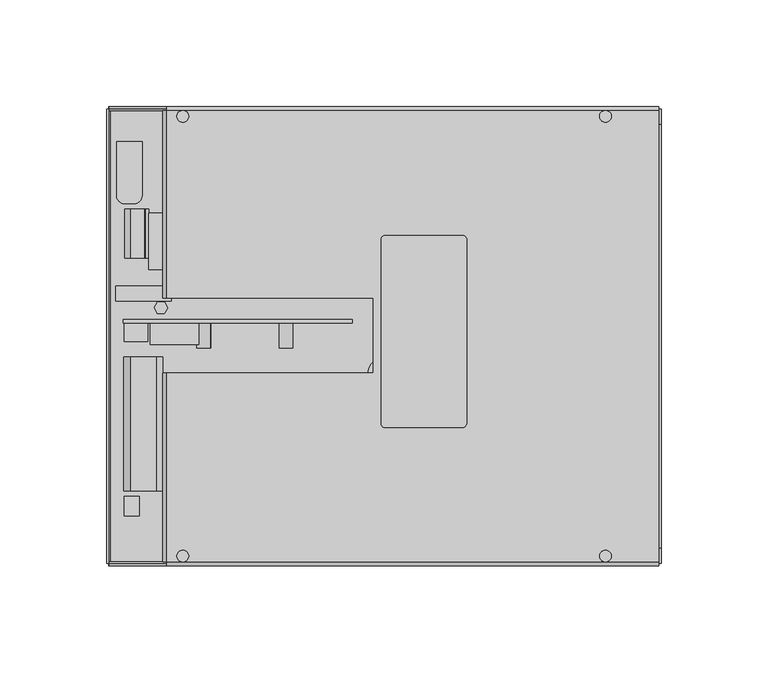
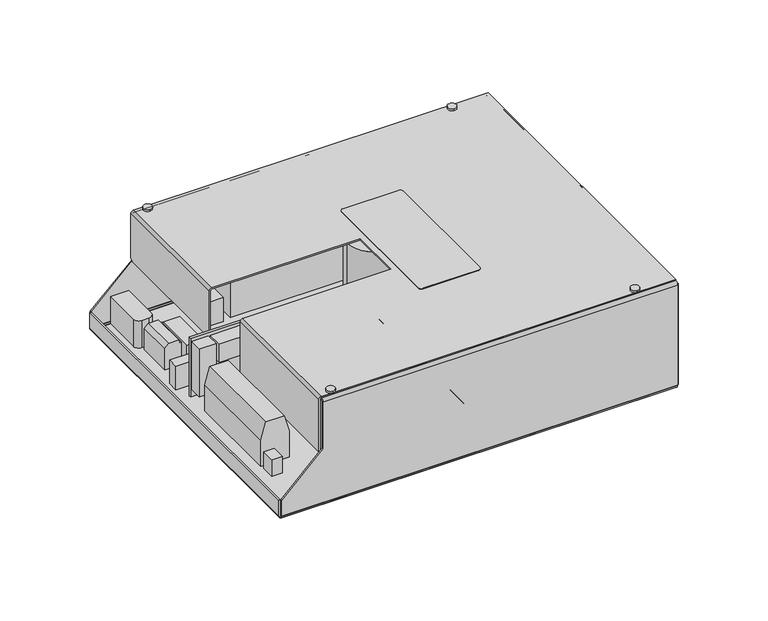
"""IFC4 building model written with IfcOpenShell, lengths in millimetres: proxy geometry, FITIN 48V 12A CG4 : FITIN 48V 12A CG4."""

from ifc_helpers import new_model, si_unit, point, frame, frame_2d, origin, place, context, project, spatial, polyline, circle_curve, trimmed, segment, composite_curve, outline, extrude, source, transform, mapped, element, save
from ifc_brep_helpers import plane_surface, cylinder_surface, revolved_surface, advanced_brep


def electrical_equipment_e4c7c74b(model_context):
    return source(origin(), model_context, "Body", "SolidModel", [
        extrude(outline(composite_curve([segment(trimmed(circle_curve(frame_2d((-105.9256131, 76.9958629)), 3.0793159), [point((-109.004929, 76.9958629))], [point((-102.8462972, 76.9958629))], False, "CARTESIAN"), True, "CONTINUOUS"), segment(trimmed(circle_curve(frame_2d((-105.9256131, 76.9958629)), 3.0793159), [point((-102.8462972, 76.9958629))], [point((-109.004929, 76.9958629))], False, "CARTESIAN"), True, "CONTINUOUS")], self_intersect=False)), frame((0.0, 0.0, -2.9999999), z_axis=(0.0, 0.0, 1.0), x_axis=(1.0, 0.0, 0.0)), (0.0, 0.0, 1.0), 2.9999999),
        extrude(outline(composite_curve([segment(trimmed(circle_curve(frame_2d((91.2381131, 76.9958629)), 3.0793159), [point((94.317429, 76.9958629))], [point((88.1587972, 76.9958629))], False, "CARTESIAN"), True, "CONTINUOUS"), segment(trimmed(circle_curve(frame_2d((91.2381131, 76.9958629)), 3.0793159), [point((88.1587972, 76.9958629))], [point((94.317429, 76.9958629))], False, "CARTESIAN"), True, "CONTINUOUS")], self_intersect=False)), frame((0.0, 0.0, -2.9999999), z_axis=(0.0, 0.0, 1.0), x_axis=(1.0, 0.0, 0.0)), (0.0, 0.0, 1.0), 2.9999999),
        extrude(outline(composite_curve([segment(trimmed(circle_curve(frame_2d((-105.9256131, -76.9958629)), 3.0793159), [point((-109.004929, -76.9958629))], [point((-102.8462972, -76.9958629))], False, "CARTESIAN"), True, "CONTINUOUS"), segment(trimmed(circle_curve(frame_2d((-105.9256131, -76.9958629)), 3.0793159), [point((-102.8462972, -76.9958629))], [point((-109.004929, -76.9958629))], False, "CARTESIAN"), True, "CONTINUOUS")], self_intersect=False)), frame((0.0, 0.0, -2.9999999), z_axis=(0.0, 0.0, 1.0), x_axis=(1.0, 0.0, 0.0)), (0.0, 0.0, 1.0), 2.9999999),
        extrude(outline(composite_curve([segment(trimmed(circle_curve(frame_2d((91.2381131, -76.9958629)), 3.0793159), [point((94.317429, -76.9958629))], [point((88.1587972, -76.9958629))], False, "CARTESIAN"), True, "CONTINUOUS"), segment(trimmed(circle_curve(frame_2d((91.2381131, -76.9958629)), 3.0793159), [point((88.1587972, -76.9958629))], [point((94.317429, -76.9958629))], False, "CARTESIAN"), True, "CONTINUOUS")], self_intersect=False)), frame((0.0, 0.0, -2.9999999), z_axis=(0.0, 0.0, 1.0), x_axis=(1.0, 0.0, 0.0)), (0.0, 0.0, 1.0), 2.9999999),
        extrude(outline(composite_curve([segment(trimmed(circle_curve(frame_2d((-1.0273773, 72.269401)), 4.0383296), [point((-5.065707, 72.269401))], [point((3.0109523, 72.269401))], False, "CARTESIAN"), True, "CONTINUOUS"), segment(trimmed(circle_curve(frame_2d((-1.0273773, 72.269401)), 4.0383296), [point((3.0109523, 72.269401))], [point((-5.065707, 72.269401))], False, "CARTESIAN"), True, "CONTINUOUS")], self_intersect=False)), frame((0.0, 0.0, -5.3849342), z_axis=(0.0, 0.0, 1.0), x_axis=(1.0, 0.0, 0.0)), (0.0, 0.0, 1.0), 1.8849342),
        extrude(outline(composite_curve([segment(trimmed(circle_curve(frame_2d((-1.0273773, -72.2729864)), 4.0383296), [point((-5.065707, -72.2729864))], [point((3.0109523, -72.2729864))], False, "CARTESIAN"), True, "CONTINUOUS"), segment(trimmed(circle_curve(frame_2d((-1.0273773, -72.2729864)), 4.0383296), [point((3.0109523, -72.2729864))], [point((-5.065707, -72.2729864))], False, "CARTESIAN"), True, "CONTINUOUS")], self_intersect=False)), frame((0.0, 0.0, -5.3849342), z_axis=(0.0, 0.0, 1.0), x_axis=(1.0, 0.0, 0.0)), (0.0, 0.0, 1.0), 1.8849342),
        extrude(outline(composite_curve([segment(polyline([(-0.5, -26.0003525), (-5.6765266, -26.0003525), (-7.1525775, -23.3914233)]), True, "CONTINUOUS"), segment(trimmed(circle_curve(frame_2d((-6.7152567, -23.1440008)), 0.5024613), [point((-7.1525775, -23.3914233))], [point((-6.9626792, -22.70668))], False, "CARTESIAN"), True, "CONTINUOUS"), segment(polyline([(-6.9626792, -22.70668), (-6.0792807, -22.2068806), (-7.9333399, -13.6456897)]), True, "CONTINUOUS"), segment(trimmed(circle_curve(frame_2d((-7.5624354, -14.311708)), 0.7623323), [point((-7.9333399, -13.6456897))], [point((-6.9004808, -13.9335987))], False, "CARTESIAN"), True, "CONTINUOUS"), segment(polyline([(-6.9004808, -13.9335987), (-4.8862606, -23.2343393)]), True, "CONTINUOUS"), segment(trimmed(circle_curve(frame_2d((-4.2186113, -22.8476493)), 0.771547), [point((-4.8862606, -23.2343393))], [point((-3.5, -23.1285098))], True, "CARTESIAN"), True, "CONTINUOUS"), segment(polyline([(-3.5, -23.1285098), (-3.5, 17.4849237)]), True, "CONTINUOUS"), segment(trimmed(circle_curve(frame_2d((-4.3663571, 17.4849237)), 0.8663571), [point((-3.5, 17.4849237))], [point((-3.8630538, 18.1900907))], True, "CARTESIAN"), True, "CONTINUOUS"), segment(polyline([(-3.8630538, 18.1900907), (-8.5, 21.4996475), (-8.5, 23.479108)]), True, "CONTINUOUS"), segment(trimmed(circle_curve(frame_2d((-7.9794605, 23.479108)), 0.5205395), [point((-8.5, 23.479108))], [point((-7.9794605, 23.9996475))], False, "CARTESIAN"), True, "CONTINUOUS"), segment(polyline([(-7.9794605, 23.9996475), (-0.5, 23.9996475)]), True, "CONTINUOUS"), segment(trimmed(circle_curve(frame_2d((-0.5, 23.4996475)), 0.5), [point((-0.5, 23.9996475))], [point((0.0, 23.4996475))], False, "CARTESIAN"), True, "CONTINUOUS"), segment(polyline([(0.0, 23.4996475), (0.0, -25.5003525)]), True, "CONTINUOUS"), segment(trimmed(circle_curve(frame_2d((-0.5, -25.5003525)), 0.5), [point((0.0, -25.5003525))], [point((-0.5, -26.0003525))], False, "CARTESIAN"), True, "CONTINUOUS")], self_intersect=False)), frame((0.0, -80.0, 0.0), z_axis=(0.0, 1.0, 0.0), x_axis=(0.0, 0.0, 1.0)), (0.0, 0.0, 1.0), 160.0),
        extrude(outline(composite_curve([segment(trimmed(circle_curve(frame_2d((-95.6602692, 102.9940273)), 2.7813682), [point((-95.6602692, 100.2126591))], [point((-95.6602692, 105.7753955))], False, "CARTESIAN"), True, "CONTINUOUS"), segment(trimmed(circle_curve(frame_2d((-95.6602692, 102.9940273)), 2.7813682), [point((-95.6602692, 105.7753955))], [point((-95.6602692, 100.2126591))], False, "CARTESIAN"), True, "CONTINUOUS")], self_intersect=False)), frame((0.0, 0.0, 73.7366001), z_axis=(0.0, 0.0, 1.0), x_axis=(1.0, 0.0, 0.0)), (0.0, 0.0, 1.0), 1.3),
        extrude(outline(composite_curve([segment(trimmed(circle_curve(frame_2d((102.143194, 102.9940273)), 2.7813682), [point((102.143194, 100.2126591))], [point((102.143194, 105.7753955))], False, "CARTESIAN"), True, "CONTINUOUS"), segment(trimmed(circle_curve(frame_2d((102.143194, 102.9940273)), 2.7813682), [point((102.143194, 105.7753955))], [point((102.143194, 100.2126591))], False, "CARTESIAN"), True, "CONTINUOUS")], self_intersect=False)), frame((0.0, 0.0, 73.7366001), z_axis=(0.0, 0.0, 1.0), x_axis=(1.0, 0.0, 0.0)), (0.0, 0.0, 1.0), 1.3),
        extrude(outline(composite_curve([segment(trimmed(circle_curve(frame_2d((-95.6602692, -102.971826)), 2.7813682), [point((-95.6602692, -105.7531942))], [point((-95.6602692, -100.1904578))], False, "CARTESIAN"), True, "CONTINUOUS"), segment(trimmed(circle_curve(frame_2d((-95.6602692, -102.971826)), 2.7813682), [point((-95.6602692, -100.1904578))], [point((-95.6602692, -105.7531942))], False, "CARTESIAN"), True, "CONTINUOUS")], self_intersect=False)), frame((0.0, 0.0, 73.7366001), z_axis=(0.0, 0.0, 1.0), x_axis=(1.0, 0.0, 0.0)), (0.0, 0.0, 1.0), 1.3),
        extrude(outline(composite_curve([segment(trimmed(circle_curve(frame_2d((102.143194, -102.971826)), 2.7813682), [point((102.143194, -105.7531942))], [point((102.143194, -100.1904578))], False, "CARTESIAN"), True, "CONTINUOUS"), segment(trimmed(circle_curve(frame_2d((102.143194, -102.971826)), 2.7813682), [point((102.143194, -100.1904578))], [point((102.143194, -105.7531942))], False, "CARTESIAN"), True, "CONTINUOUS")], self_intersect=False)), frame((0.0, 0.0, 73.7366001), z_axis=(0.0, 0.0, 1.0), x_axis=(1.0, 0.0, 0.0)), (0.0, 0.0, 1.0), 1.3),
        extrude(outline(composite_curve([segment(trimmed(circle_curve(frame_2d((-0.7925928, 45.2398)), 2.043649), [point((-2.8362418, 45.2398))], [point((-1.2127134, 47.2398))], False, "CARTESIAN"), True, "CONTINUOUS"), segment(polyline([(-1.2127134, 47.2398), (35.1863429, 47.2398)]), True, "CONTINUOUS"), segment(trimmed(circle_curve(frame_2d((35.1863429, 45.2623847)), 1.9774153), [point((35.1863429, 47.2398))], [point((37.1637582, 45.2623847))], False, "CARTESIAN"), True, "CONTINUOUS"), segment(polyline([(37.1637582, 45.2623847), (37.1637582, -40.71229)]), True, "CONTINUOUS"), segment(trimmed(circle_curve(frame_2d((35.1158481, -40.71229)), 2.04791), [point((37.1637582, -40.71229))], [point((35.1158481, -42.7602))], False, "CARTESIAN"), True, "CONTINUOUS"), segment(polyline([(35.1158481, -42.7602), (-0.8881353, -42.7602)]), True, "CONTINUOUS"), segment(trimmed(circle_curve(frame_2d((-0.8881353, -40.8120935)), 1.9481065), [point((-0.8881353, -42.7602))], [point((-2.8362418, -40.8120935))], False, "CARTESIAN"), True, "CONTINUOUS"), segment(polyline([(-2.8362418, -40.8120935), (-2.8362418, 45.2398)]), True, "CONTINUOUS")], self_intersect=False)), frame((0.0, 0.0, 73.7366001), z_axis=(0.0, 0.0, 1.0), x_axis=(1.0, 0.0, 0.0)), (0.0, 0.0, 1.0), 0.5),
        extrude(outline(composite_curve([segment(trimmed(circle_curve(frame_2d((-0.9028531, -17.8773181)), 8.2310181), [point((-9.1338713, -17.8773181))], [point((7.328165, -17.8773181))], False, "CARTESIAN"), True, "CONTINUOUS"), segment(trimmed(circle_curve(frame_2d((-0.9028531, -17.8773181)), 8.2310181), [point((7.328165, -17.8773181))], [point((-9.1338713, -17.8773181))], False, "CARTESIAN"), True, "CONTINUOUS")], self_intersect=False)), frame((0.0, 0.0, 12.6000001), z_axis=(0.0, 0.0, 1.0), x_axis=(1.0, 0.0, 0.0)), (0.0, 0.0, 1.0), 37.0),
        extrude(outline(composite_curve([segment(trimmed(circle_curve(frame_2d((16.2200272, -17.8773181)), 8.2310181), [point((7.9890091, -17.8773181))], [point((24.4510453, -17.8773181))], False, "CARTESIAN"), True, "CONTINUOUS"), segment(trimmed(circle_curve(frame_2d((16.2200272, -17.8773181)), 8.2310181), [point((24.4510453, -17.8773181))], [point((7.9890091, -17.8773181))], False, "CARTESIAN"), True, "CONTINUOUS")], self_intersect=False)), frame((0.0, 0.0, 12.6000001), z_axis=(0.0, 0.0, 1.0), x_axis=(1.0, 0.0, 0.0)), (0.0, 0.0, 1.0), 37.0),
        extrude(outline(composite_curve([segment(trimmed(circle_curve(frame_2d((34.0051804, -17.8773181)), 8.2310181), [point((25.7741623, -17.8773181))], [point((42.2361985, -17.8773181))], False, "CARTESIAN"), True, "CONTINUOUS"), segment(trimmed(circle_curve(frame_2d((34.0051804, -17.8773181)), 8.2310181), [point((42.2361985, -17.8773181))], [point((25.7741623, -17.8773181))], False, "CARTESIAN"), True, "CONTINUOUS")], self_intersect=False)), frame((0.0, 0.0, 12.6000001), z_axis=(0.0, 0.0, 1.0), x_axis=(1.0, 0.0, 0.0)), (0.0, 0.0, 1.0), 37.0),
        extrude(outline(composite_curve([segment(trimmed(circle_curve(frame_2d((16.2219321, 41.1125217)), 17.7397763), [point((-1.5178441, 41.1125217))], [point((33.9617084, 41.1125217))], False, "CARTESIAN"), True, "CONTINUOUS"), segment(trimmed(circle_curve(frame_2d((16.2219321, 41.1125217)), 17.7397763), [point((33.9617084, 41.1125217))], [point((-1.5178441, 41.1125217))], False, "CARTESIAN"), True, "CONTINUOUS")], self_intersect=False)), frame((0.0, 0.0, 12.6000001), z_axis=(0.0, 0.0, 1.0), x_axis=(1.0, 0.0, 0.0)), (0.0, 0.0, 1.0), 42.0),
        extrude(outline(composite_curve([segment(trimmed(circle_curve(frame_2d((52.1594321, 41.1125217)), 17.7397763), [point((34.4196559, 41.1125217))], [point((69.8992084, 41.1125217))], False, "CARTESIAN"), True, "CONTINUOUS"), segment(trimmed(circle_curve(frame_2d((52.1594321, 41.1125217)), 17.7397763), [point((69.8992084, 41.1125217))], [point((34.4196559, 41.1125217))], False, "CARTESIAN"), True, "CONTINUOUS")], self_intersect=False)), frame((0.0, 0.0, 12.6000001), z_axis=(0.0, 0.0, 1.0), x_axis=(1.0, 0.0, 0.0)), (0.0, 0.0, 1.0), 42.0),
        extrude(outline(composite_curve([segment(trimmed(circle_curve(frame_2d((28.9757813, -85.7961092)), 3.1970547), [point((28.9757813, -82.5990544))], [point((28.9757813, -88.9931639))], False, "CARTESIAN"), True, "CONTINUOUS"), segment(trimmed(circle_curve(frame_2d((28.9757813, -85.7961092)), 3.1970547), [point((28.9757813, -88.9931639))], [point((28.9757813, -82.5990544))], False, "CARTESIAN"), True, "CONTINUOUS")], self_intersect=False)), frame((0.0, -5.5772, 0.0), z_axis=(0.0, 1.0, 0.0), x_axis=(0.0, 0.0, 1.0)), (0.0, 0.0, 1.0), 11.8),
        extrude(outline(composite_curve([segment(trimmed(circle_curve(frame_2d((35.5650074, -85.9132967)), 3.179945), [point((35.5650074, -82.7333517))], [point((35.5650074, -89.0932416))], False, "CARTESIAN"), True, "CONTINUOUS"), segment(trimmed(circle_curve(frame_2d((35.5650074, -85.9132967)), 3.179945), [point((35.5650074, -89.0932416))], [point((35.5650074, -82.7333517))], False, "CARTESIAN"), True, "CONTINUOUS")], self_intersect=False)), frame((0.0, -5.5772, 0.0), z_axis=(0.0, 1.0, 0.0), x_axis=(0.0, 0.0, 1.0)), (0.0, 0.0, 1.0), 11.8),
        extrude(outline(composite_curve([segment(trimmed(circle_curve(frame_2d((33.7906491, -47.3289626)), 3.1970547), [point((33.7906491, -44.1319079))], [point((33.7906491, -50.5260173))], False, "CARTESIAN"), True, "CONTINUOUS"), segment(trimmed(circle_curve(frame_2d((33.7906491, -47.3289626)), 3.1970547), [point((33.7906491, -50.5260173))], [point((33.7906491, -44.1319079))], False, "CARTESIAN"), True, "CONTINUOUS")], self_intersect=False)), frame((0.0, -5.5772, 0.0), z_axis=(0.0, 1.0, 0.0), x_axis=(0.0, 0.0, 1.0)), (0.0, 0.0, 1.0), 11.8),
        extrude(outline(composite_curve([segment(trimmed(circle_curve(frame_2d((40.5361252, -47.2899001)), 3.179945), [point((40.5361252, -44.1099551))], [point((40.5361252, -50.4698451))], False, "CARTESIAN"), True, "CONTINUOUS"), segment(trimmed(circle_curve(frame_2d((40.5361252, -47.2899001)), 3.179945), [point((40.5361252, -50.4698451))], [point((40.5361252, -44.1099551))], False, "CARTESIAN"), True, "CONTINUOUS")], self_intersect=False)), frame((0.0, -5.5772, 0.0), z_axis=(0.0, 1.0, 0.0), x_axis=(0.0, 0.0, 1.0)), (0.0, 0.0, 1.0), 11.8),
        extrude(outline(polyline([(-110.828753, -3.7772), (-110.828753, 6.2228), (-88.095753, 6.2228), (-88.095753, -3.7772), (-110.828753, -3.7772)])), frame((0.0, 0.0, 38.1524001), z_axis=(0.0, 0.0, 1.0), x_axis=(1.0, 0.0, 0.0)), (0.0, 0.0, 1.0), 12.4968),
        extrude(outline(polyline([(-111.971753, -2.3772), (-122.969953, -2.3772), (-122.969953, 6.2228), (-111.971753, 6.2228), (-111.971753, -2.3772)])), frame((0.0, 0.0, 17.6546001), z_axis=(0.0, 0.0, 1.0), x_axis=(1.0, 0.0, 0.0)), (0.0, 0.0, 1.0), 32.9946),
        extrude(outline(polyline([(-123.630353, 7.8228), (-16.467753, 7.8228), (-16.467753, 6.2228), (-123.630353, 6.2228), (-123.630353, 7.8228)])), frame((0.0, 0.0, 12.6000001), z_axis=(0.0, 0.0, 1.0), x_axis=(1.0, 0.0, 0.0)), (0.0, 0.0, 1.0), 40.386),
        extrude(outline(polyline([(-109.074, 13.5426762), (-107.3951384, 16.2379975), (-104.2214909, 16.1317213), (-102.726705, 13.3301238), (-104.4055666, 10.6348025), (-107.5792142, 10.7410787), (-109.074, 13.5426762)])), frame((0.0, 0.0, 1.0000001), z_axis=(0.0, 0.0, 1.0), x_axis=(1.0, 0.0, 0.0)), (0.0, 0.0, 1.0), 14.1),
        extrude(outline(polyline([(84.6512475, 92.664), (84.6512475, 62.664), (-65.3487525, 62.664), (-65.3487525, 92.664), (84.6512475, 92.664)])), frame((0.0, 0.0, 12.6000001), z_axis=(0.0, 0.0, 1.0), x_axis=(1.0, 0.0, 0.0)), (0.0, 0.0, 1.0), 45.0),
        extrude(outline(composite_curve([segment(trimmed(circle_curve(frame_2d((-105.7633999, 1.7366001)), 1.7366001), [point((-105.7634, -1e-07))], [point((-107.5, 1.7366001))], False, "CARTESIAN"), True, "CONTINUOUS"), segment(polyline([(-107.5, 1.7366001), (-106.5, 1.7366001)]), True, "CONTINUOUS"), segment(trimmed(circle_curve(frame_2d((-105.7633999, 1.7366001)), 0.7366001), [point((-106.5, 1.7366001))], [point((-105.7634, 0.9999999))], True, "CARTESIAN"), True, "CONTINUOUS"), segment(polyline([(-105.7634, 0.9999999), (-105.7634, -1e-07)]), True, "CONTINUOUS")], self_intersect=False)), frame((-130.2369527, 0.0, 0.0), z_axis=(1.0, 0.0, 0.0), x_axis=(0.0, 1.0, 0.0)), (0.0, 0.0, 1.0), 257.4024895),
        extrude(outline(composite_curve([segment(polyline([(-105.7634, 72.7366001), (-99.5, 72.7366001), (-99.5, 71.7366001), (-105.7634, 71.7366001)]), True, "CONTINUOUS"), segment(trimmed(circle_curve(frame_2d((-105.7634, 71.0000001)), 0.7366), [point((-105.7634, 71.7366001))], [point((-106.5, 71.0000001))], True, "CARTESIAN"), True, "CONTINUOUS"), segment(polyline([(-106.5, 71.0000001), (-107.5, 71.0000001)]), True, "CONTINUOUS"), segment(trimmed(circle_curve(frame_2d((-105.7634, 71.0000001)), 1.7366), [point((-107.5, 71.0000001))], [point((-105.7634, 72.7366001))], False, "CARTESIAN"), True, "CONTINUOUS")], self_intersect=False)), frame((-103.1662418, 0.0, 0.0), z_axis=(1.0, 0.0, 0.0), x_axis=(0.0, 1.0, 0.0)), (0.0, 0.0, 1.0), 230.3317786),
        extrude(outline(polyline([(38.7366001, -103.1662418), (12.5999999, -130.1662418), (1.7366001, -130.1662418), (1.7366001, 127.1655368), (71.0000001, 127.1655368), (71.0000001, -103.1662418), (38.7366001, -103.1662418)])), frame((0.0, -107.5, 0.0), z_axis=(0.0, 1.0, 0.0), x_axis=(0.0, 0.0, 1.0)), (0.0, 0.0, 1.0), 1.0),
        extrude(outline(composite_curve([segment(polyline([(105.7634, -1e-07), (105.7634, 0.9999999)]), True, "CONTINUOUS"), segment(trimmed(circle_curve(frame_2d((105.7633999, 1.7366001)), 0.7366001), [point((105.7634, 0.9999999))], [point((106.5, 1.7366001))], True, "CARTESIAN"), True, "CONTINUOUS"), segment(polyline([(106.5, 1.7366001), (107.5, 1.7366001)]), True, "CONTINUOUS"), segment(trimmed(circle_curve(frame_2d((105.7633999, 1.7366001)), 1.7366001), [point((107.5, 1.7366001))], [point((105.7634, -1e-07))], False, "CARTESIAN"), True, "CONTINUOUS")], self_intersect=False)), frame((-130.2369527, 0.0, 0.0), z_axis=(1.0, 0.0, 0.0), x_axis=(0.0, 1.0, 0.0)), (0.0, 0.0, 1.0), 257.4024895),
        extrude(outline(composite_curve([segment(trimmed(circle_curve(frame_2d((105.7634, 71.0000001)), 1.7366), [point((105.7634, 72.7366001))], [point((107.5, 71.0000001))], False, "CARTESIAN"), True, "CONTINUOUS"), segment(polyline([(107.5, 71.0000001), (106.5, 71.0000001)]), True, "CONTINUOUS"), segment(trimmed(circle_curve(frame_2d((105.7634, 71.0000001)), 0.7366), [point((106.5, 71.0000001))], [point((105.7634, 71.7366001))], True, "CARTESIAN"), True, "CONTINUOUS"), segment(polyline([(105.7634, 71.7366001), (99.5, 71.7366001), (99.5, 72.7366001), (105.7634, 72.7366001)]), True, "CONTINUOUS")], self_intersect=False)), frame((-103.1662418, 0.0, 0.0), z_axis=(1.0, 0.0, 0.0), x_axis=(0.0, 1.0, 0.0)), (0.0, 0.0, 1.0), 230.3317786),
        extrude(outline(polyline([(38.7366001, -103.1662418), (12.5999999, -130.1662418), (1.7366001, -130.1662418), (1.7366001, 127.1655368), (71.0000001, 127.1655368), (71.0000001, -103.1662418), (38.7366001, -103.1662418)])), frame((0.0, 106.5, 0.0), z_axis=(0.0, 1.0, 0.0), x_axis=(0.0, 0.0, 1.0)), (0.0, 0.0, 1.0), 1.0),
        extrude(outline(composite_curve([segment(polyline([(72.7366002, 126.4996473), (72.7366002, 122.7362473), (71.7366002, 122.7362473), (71.7366002, 126.4996473)]), True, "CONTINUOUS"), segment(trimmed(circle_curve(frame_2d((71.0000002, 126.4996473)), 0.7366), [point((71.7366002, 126.4996473))], [point((71.0000002, 127.2362473))], True, "CARTESIAN"), True, "CONTINUOUS"), segment(polyline([(71.0000002, 127.2362473), (71.0000002, 128.2362473)]), True, "CONTINUOUS"), segment(trimmed(circle_curve(frame_2d((71.0000002, 126.4996473)), 1.7366), [point((71.0000002, 128.2362473))], [point((72.7366002, 126.4996473))], False, "CARTESIAN"), True, "CONTINUOUS")], self_intersect=False)), frame((0.0, -99.0, 0.0), z_axis=(0.0, 1.0, 0.0), x_axis=(0.0, 0.0, 1.0)), (0.0, 0.0, 1.0), 198.0),
        extrude(outline(composite_curve([segment(polyline([(71.0000002, 128.2362473), (71.0000002, 127.2362473), (1.7365999, 127.2362473)]), True, "CONTINUOUS"), segment(trimmed(circle_curve(frame_2d((1.7365999, 126.4996475)), 0.7365999), [point((1.7365999, 127.2362473))], [point((1.0, 126.4996475))], True, "CARTESIAN"), True, "CONTINUOUS"), segment(polyline([(1.0, 126.4996475), (1.0, -129.5003527)]), True, "CONTINUOUS"), segment(trimmed(circle_curve(frame_2d((1.7365999, -129.5003527)), 0.7365999), [point((1.0, -129.5003527))], [point((1.7365999, -130.2369527))], True, "CARTESIAN"), True, "CONTINUOUS"), segment(polyline([(1.7365999, -130.2369527), (12.5999999, -130.2369527), (12.5999999, -131.2369527), (1.7365999, -131.2369527)]), True, "CONTINUOUS"), segment(trimmed(circle_curve(frame_2d((1.7365999, -129.5003527)), 1.7365999), [point((1.7365999, -131.2369527))], [point((0.0, -129.5003527))], False, "CARTESIAN"), True, "CONTINUOUS"), segment(polyline([(0.0, -129.5003527), (0.0, 126.4996475)]), True, "CONTINUOUS"), segment(trimmed(circle_curve(frame_2d((1.7365999, 126.4996475)), 1.7365999), [point((0.0, 126.4996475))], [point((1.7365999, 128.2362473))], False, "CARTESIAN"), True, "CONTINUOUS"), segment(polyline([(1.7365999, 128.2362473), (71.0000002, 128.2362473)]), True, "CONTINUOUS")], self_intersect=False)), frame((0.0, -106.4292893, 0.0), z_axis=(0.0, 1.0, 0.0), x_axis=(0.0, 0.0, 1.0)), (0.0, 0.0, 1.0), 212.8585786),
        extrude(outline(polyline([(-80.796063, 61.4932), (-80.796063, 88.0108), (-70.4165525, 88.0108), (-70.4165525, 61.4932), (-80.796063, 61.4932)])), frame((0.0, 0.0, 12.6000001), z_axis=(0.0, 0.0, 1.0), x_axis=(1.0, 0.0, 0.0)), (0.0, 0.0, 1.0), 16.2),
        extrude(outline(polyline([(-111.5391525, 57.7594), (-101.0235525, 57.7594), (-101.0235525, 31.2418), (-111.5391525, 31.2418), (-111.5391525, 57.7594)])), frame((0.0, 0.0, 12.6000001), z_axis=(0.0, 0.0, 1.0), x_axis=(1.0, 0.0, 0.0)), (0.0, 0.0, 1.0), 16.2),
        extrude(outline(polyline([(-127.1093525, 23.6218), (-101.0743525, 23.6218), (-101.0743525, 16.586), (-127.1093525, 16.586), (-127.1093525, 23.6218)])), frame((0.0, 0.0, 12.6000001), z_axis=(0.0, 0.0, 1.0), x_axis=(1.0, 0.0, 0.0)), (0.0, 0.0, 1.0), 16.2),
        extrude(outline(polyline([(27.2695358, -122.7913525), (12.6000001, -122.7913525), (12.6000001, -111.6915525), (27.7913435, -111.6915525), (27.7913435, -113.2953003), (29.0577575, -113.2953003), (29.8000001, -113.6520367), (29.8000001, -120.2608882), (27.2695358, -122.7913525)])), frame((0.0, 36.7028, 0.0), z_axis=(0.0, 1.0, 0.0), x_axis=(0.0, 0.0, 1.0)), (0.0, 0.0, 1.0), 22.86),
        extrude(outline(composite_curve([segment(polyline([(-126.5505525, 91.1858), (-114.7395525, 91.1858), (-114.7395525, 65.7858)]), True, "CONTINUOUS"), segment(trimmed(circle_curve(frame_2d((-118.3717525, 65.7858)), 3.6322), [point((-114.7395525, 65.7858))], [point((-118.3717525, 62.1536))], False, "CARTESIAN"), True, "CONTINUOUS"), segment(polyline([(-118.3717525, 62.1536), (-123.0453525, 62.1536)]), True, "CONTINUOUS"), segment(trimmed(circle_curve(frame_2d((-123.0453525, 65.6588)), 3.5052), [point((-123.0453525, 62.1536))], [point((-126.5505525, 65.6588))], False, "CARTESIAN"), True, "CONTINUOUS"), segment(polyline([(-126.5505525, 65.6588), (-126.5505525, 91.1858)]), True, "CONTINUOUS")], self_intersect=False)), frame((0.0, 0.0, 12.6000001), z_axis=(0.0, 0.0, 1.0), x_axis=(1.0, 0.0, 0.0)), (0.0, 0.0, 1.0), 18.694635),
        extrude(outline(polyline([(-116.1111525, -75.108), (-116.1111525, -84.0742), (-123.1215525, -84.0742), (-123.1215525, -75.108), (-116.1111525, -75.108)])), frame((0.0, 0.0, 12.6000001), z_axis=(0.0, 0.0, 1.0), x_axis=(1.0, 0.0, 0.0)), (0.0, 0.0, 1.0), 11.4),
        extrude(outline(polyline([(30.5465273, -123.4263525), (12.6000001, -123.4263525), (12.6000001, -105.0113525), (30.5465273, -105.0113525), (42.1000001, -108.2188525), (42.1000001, -120.2188525), (30.5465273, -123.4263525)])), frame((0.0, -72.5172, 0.0), z_axis=(0.0, 1.0, 0.0), x_axis=(0.0, 0.0, 1.0)), (0.0, 0.0, 1.0), 62.865),
        advanced_brep(
        [(-103.1662418, 105.7698, 73.7366001), (127.1637582, 105.7698, 73.7366001), (127.1637582, 105.7698, 72.7366001), (-103.1662418, 105.7698, 72.7366001), (-103.9662418, 105.7698, 71.9366001), (-103.9662418, 105.7698, 41.7366001), (-104.9662418, 105.7698, 41.7366001), (-104.9662418, 105.7698, 71.9366001), (-103.1662418, -105.7602, 73.7366001), (-104.9662418, -105.7602, 71.9366001), (-104.9662418, -105.7602, 36.2366001), (-103.9662418, -105.7602, 36.2366001), (-103.9662418, -105.7602, 71.9366001), (-103.1662418, -105.7602, 72.7366001), (127.1637582, -105.7602, 72.7366001), (127.1637582, -105.7602, 73.7366001), (-103.1662418, 17.8198, 73.7366001), (-6.5562418, 17.8198, 73.7366001), (-6.5562418, -17.1802, 73.7366001), (-103.1662418, -17.1802, 73.7366001), (-103.1662418, -17.1802, 72.7366001), (-6.5562418, -17.1802, 72.7366001), (-6.5562418, 17.8198, 72.7366001), (-103.1662418, 17.8198, 72.7366001), (-103.9662418, 17.8198, 71.9366001), (-103.9662418, -17.1802, 71.9366001), (-103.9662418, -17.1802, 36.2366001), (-103.9662418, 17.8198, 41.7366001), (-103.9662418, 19.8198, 39.7366001), (-103.9662418, 103.7698, 39.7366001), (-104.9662418, -17.1802, 36.2366001), (-104.9662418, -17.1802, 71.9366001), (-104.9662418, 17.8198, 71.9366001), (-104.9662418, 103.7698, 39.7366001), (-104.9662418, 19.8198, 39.7366001), (-104.9662418, 17.8198, 41.7366001)],
        [
            (0, 1),
            (1, 2),
            (2, 3),
            (3, 4, circle_curve(frame((-103.1662418, 105.7698, 71.9366001), z_axis=(0.0, -1.0, 0.0), x_axis=(-1.0, 0.0, 0.0)), 0.8)),
            (4, 5),
            (5, 6),
            (6, 7),
            (7, 0, circle_curve(frame((-103.1662418, 105.7698, 71.9366001), z_axis=(0.0, 1.0, 0.0), x_axis=(-1.0, 0.0, 0.0)), 1.8)),
            (8, 9, circle_curve(frame((-103.1662418, -105.7602, 71.9366001), z_axis=(0.0, -1.0, 0.0), x_axis=(-1.0, 0.0, 0.0)), 1.8)),
            (9, 10),
            (10, 11),
            (11, 12),
            (12, 13, circle_curve(frame((-103.1662418, -105.7602, 71.9366001), z_axis=(0.0, 1.0, 0.0), x_axis=(-1.0, 0.0, 0.0)), 0.8)),
            (13, 14),
            (14, 15),
            (15, 8),
            (0, 16),
            (16, 17),
            (17, 18),
            (18, 19),
            (19, 8),
            (15, 1),
            (14, 2),
            (13, 20),
            (20, 21),
            (21, 22),
            (22, 23),
            (23, 3),
            (23, 24, circle_curve(frame((-103.1662418, 17.8198, 71.9366001), z_axis=(0.0, -1.0, 0.0), x_axis=(-1.0, 0.0, 0.0)), 0.8)),
            (24, 4),
            (12, 25),
            (25, 20, circle_curve(frame((-103.1662418, -17.1802, 71.9366001), z_axis=(0.0, 1.0, 0.0), x_axis=(-1.0, 0.0, 0.0)), 0.8)),
            (11, 26),
            (26, 25),
            (24, 27),
            (27, 28),
            (28, 29),
            (29, 5),
            (10, 30),
            (30, 26),
            (9, 31),
            (31, 30),
            (32, 7),
            (6, 33),
            (33, 34),
            (34, 35),
            (35, 32),
            (32, 16, circle_curve(frame((-103.1662418, 17.8198, 71.9366001), z_axis=(0.0, 1.0, 0.0), x_axis=(-1.0, 0.0, 0.0)), 1.8)),
            (19, 31, circle_curve(frame((-103.1662418, -17.1802, 71.9366001), z_axis=(0.0, -1.0, 0.0), x_axis=(-1.0, 0.0, 0.0)), 1.8)),
            (18, 21),
            (17, 22),
            (35, 27),
            (29, 33),
            (28, 34),
        ],
        [
            plane_surface(frame((127.1637582, 105.7698, 73.7366001), z_axis=(0.0, 1.0, 0.0), x_axis=(1.0, 0.0, 0.0))),
            plane_surface(frame((127.1637582, -105.7602, 73.7366001), z_axis=(0.0, -1.0, 0.0), x_axis=(-1.0, 0.0, 0.0))),
            plane_surface(frame((-103.1662418, 105.7698, 73.7366001), z_axis=(0.0, 0.0, 1.0), x_axis=(0.0, -1.0, 0.0))),
            plane_surface(frame((127.1637582, 105.7698, 73.7366001), z_axis=(1.0, 0.0, 0.0), x_axis=(0.0, -1.0, 0.0))),
            plane_surface(frame((127.1637582, 105.7698, 72.7366001), z_axis=(0.0, 0.0, -1.0), x_axis=(0.0, -1.0, 0.0))),
            revolved_surface(polyline([(-103.96624179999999, 17.8198, 71.9366001), (-103.96624179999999, 105.7698, 71.9366001)]), (-103.1662418, -105.7602, 71.9366001), (0.0, -1.0, 0.0)),
            revolved_surface(polyline([(-103.96624179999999, -105.7602, 71.9366001), (-103.96624179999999, -17.1802, 71.9366001)]), (-103.1662418, -105.7602, 71.9366001), (0.0, -1.0, 0.0)),
            plane_surface(frame((-103.9662418, 105.7698, 71.9366001), z_axis=(1.0, 0.0, 0.0), x_axis=(0.0, -1.0, 0.0))),
            plane_surface(frame((-103.9662418, 105.7698, 36.2366001), z_axis=(0.0, 0.0, -1.0), x_axis=(0.0, -1.0, 0.0))),
            plane_surface(frame((-104.9662418, 105.7698, 36.2366001), z_axis=(-1.0, 0.0, 0.0), x_axis=(0.0, -1.0, 0.0))),
            cylinder_surface(frame((-103.1662418, -105.7602, 71.9366001), z_axis=(0.0, 1.0, 0.0), x_axis=(-1.0, 0.0, 0.0)), 1.8),
            plane_surface(frame((-139.9662418, -17.1802, 76.630269), z_axis=(0.0, 1.0, 0.0), x_axis=(0.0, 0.0, -1.0))),
            plane_surface(frame((-6.5562418, -17.1802, 76.630269), z_axis=(-1.0, 0.0, 0.0), x_axis=(0.0, 0.0, -1.0))),
            plane_surface(frame((-6.5562418, 17.8198, 76.630269), z_axis=(0.0, -1.0, 0.0), x_axis=(0.0, 0.0, -1.0))),
            plane_surface(frame((-90.5475118, 105.7698, 41.7366001), z_axis=(0.0, 0.7071067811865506, -0.7071067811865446), x_axis=(-1.0, 0.0, 0.0))),
            plane_surface(frame((-90.5475118, 103.7698, 39.7366001), z_axis=(0.0, 0.0, -1.0), x_axis=(-1.0, 0.0, 0.0))),
            plane_surface(frame((-90.5475118, 19.8198, 39.7366001), z_axis=(0.0, -0.7071067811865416, -0.7071067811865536), x_axis=(-1.0, 0.0, 0.0))),
        ],
        [
            (0, [[1, 2, 3, 4, 5, 6, 7, 8]]),
            (1, [[9, 10, 11, 12, 13, 14, 15, 16]]),
            (2, [[-1, 17, 18, 19, 20, 21, -16, 22]]),
            (3, [[-2, -22, -15, 23]]),
            (4, [[-3, -23, -14, 24, 25, 26, 27, 28]]),
            (5, [[-4, -28, 29, 30]]),
            (6, [[-13, 31, 32, -24]]),
            (7, [[-12, 33, 34, -31]]),
            (7, [[-30, 35, 36, 37, 38, -5]]),
            (8, [[-11, 39, 40, -33]]),
            (9, [[-10, 41, 42, -39]]),
            (9, [[43, -7, 44, 45, 46, 47]]),
            (10, [[-8, -43, 48, -17]]),
            (10, [[-9, -21, 49, -41]]),
            (11, [[50, -25, -32, -34, -40, -42, -49, -20]]),
            (12, [[-50, -19, 51, -26]]),
            (13, [[-51, -18, -48, -47, 52, -35, -29, -27]]),
            (14, [[53, -44, -6, -38]]),
            (15, [[-53, -37, 54, -45]]),
            (16, [[-54, -36, -52, -46]]),
        ],
    ),
    ])


if __name__ == "__main__":
    model = new_model("IFC4")
    model_context = context("Model", 3, world=origin())
    ifc_project = project(units=[si_unit("LENGTHUNIT", "METRE", prefix="MILLI")], contexts=[model_context])
    site = spatial("IfcSite", under=ifc_project)
    building = spatial("IfcBuilding", under=site)
    placement = place(None, origin())
    electrical_equipment_shape = electrical_equipment_e4c7c74b(model_context)
    element("IfcBuildingElementProxy", 1, Name="FITIN 48V 12A CG4 : FITIN 48V 12A CG4", ObjectType="FITIN 48V 12A CG4 : FITIN 48V 12A CG4", at=placement, inside=building, context=model_context, shape_type="MappedRepresentation", body=[
        mapped(electrical_equipment_shape, transform((0.0, 0.0, 0.0), x_axis=(1.0, 0.0, 0.0), y_axis=(0.0, 1.0, 0.0), z_axis=(0.0, 0.0, 1.0))),
    ])
    save(model, "model.ifc")
